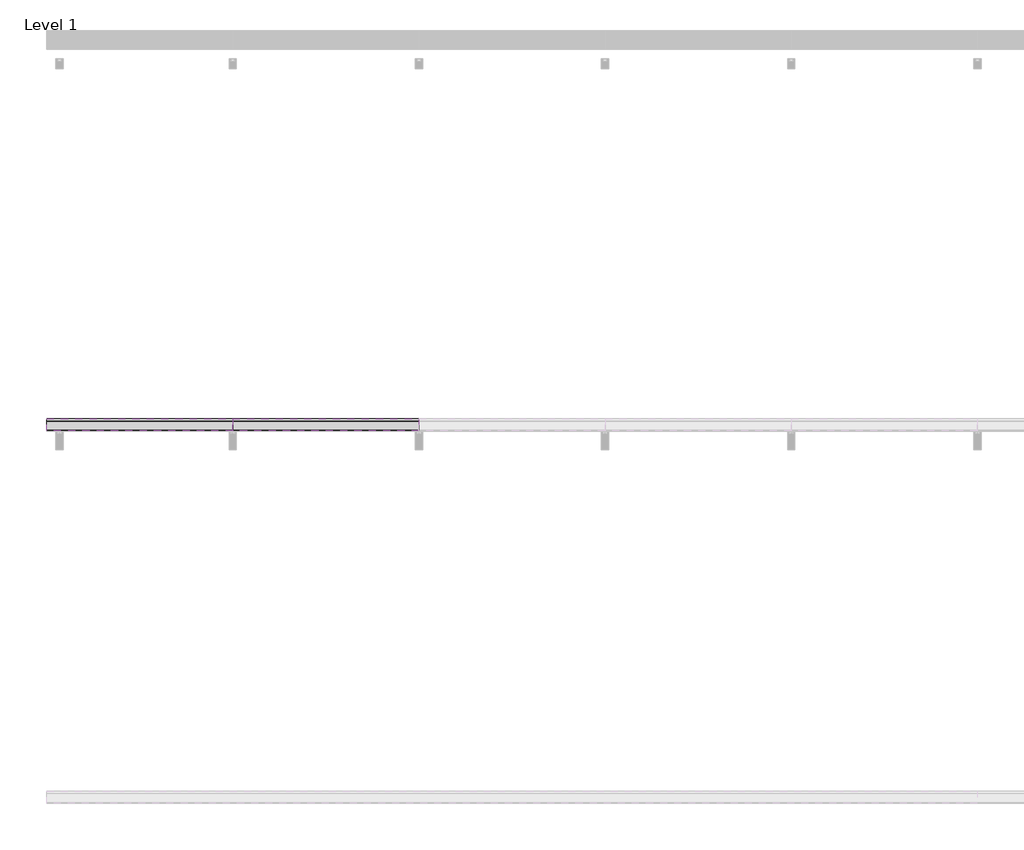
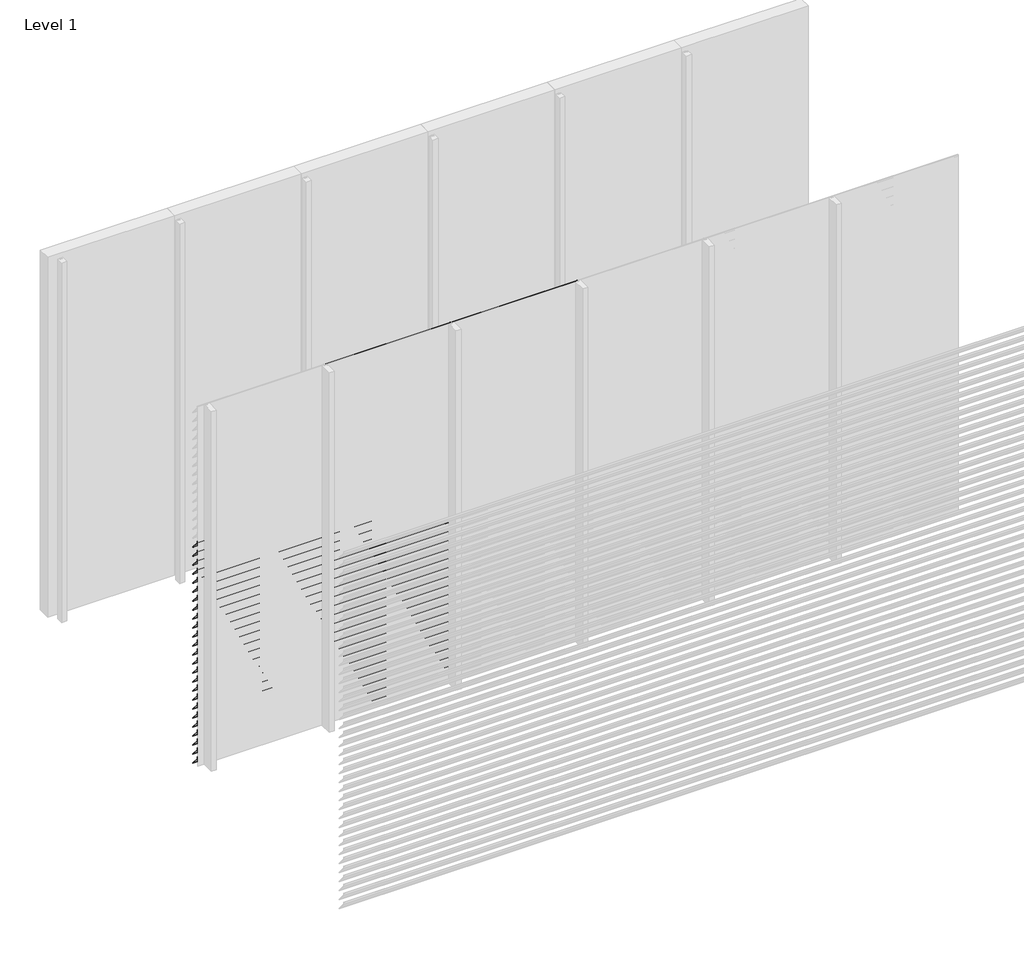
# One storey, part 14 of 35: 86 proxies.
"""IFC4 building model written with IfcOpenShell, lengths in millimetres."""

import ifcopenshell
import ifcopenshell.guid

model = None  # the IFC model being written
_history = None  # IfcOwnerHistory: only IFC2X3 demands one
_inside = {}  # id of a spatial element -> (the spatial element, [elements in it])
_under = {}  # id of a project, library or spatial element -> (it, [spatial elements below it])
_declared = {}  # id of a project -> (the project, [libraries it declares])
_typed = {}  # id of a type object -> (the type object, [elements of that type])
_made_of = {}  # id of a material, layer set ... -> (it, [elements and type objects made of it])


def new_model(schema):
    """Start an empty IFC model of exactly this schema.

    Asked for "IFC4X3", IfcOpenShell would pick the latest addendum, in which some entities
    have other attributes; the version numbers below select the first issue.
    IFC2X3 requires an IfcOwnerHistory on every rooted entity: one is made here for all.
    """
    global model, _history
    if schema == "IFC4X3":
        model = ifcopenshell.file(schema_version=(4, 3, 0, 0))
    else:
        model = ifcopenshell.file(schema=schema)
    _inside.clear()
    _under.clear()
    _declared.clear()
    _typed.clear()
    _made_of.clear()
    _history = None
    if model.schema == "IFC2X3":
        org = make("IfcOrganization", Name="unknown")
        user = make(
            "IfcPersonAndOrganization",
            ThePerson=make("IfcPerson", FamilyName="unknown"),
            TheOrganization=org,
        )
        app = make(
            "IfcApplication",
            ApplicationDeveloper=org,
            Version="unknown",
            ApplicationFullName="unknown",
            ApplicationIdentifier="unknown",
        )
        _history = make(
            "IfcOwnerHistory",
            OwningUser=user,
            OwningApplication=app,
            ChangeAction="ADDED",
            CreationDate=0,
        )
    return model


def make(cls, **values):
    """One entity of the class cls with the attributes given. An attribute that is None is left unset."""
    return model.create_entity(
        cls, **{name: value for name, value in values.items() if value is not None}
    )


def rooted(cls, **values):
    """An entity with a GlobalId (a new one), such as an element, a storey or a relation."""
    return make(cls, GlobalId=ifcopenshell.guid.new(), OwnerHistory=_history, **values)


def si_unit(unit_type, name, prefix=None):
    """IfcSIUnit, for example si_unit("LENGTHUNIT", "METRE", prefix="MILLI")."""
    return make("IfcSIUnit", UnitType=unit_type, Prefix=prefix, Name=name)


def assignment(units):
    """IfcUnitAssignment: the units of a project."""
    return None if units is None else make("IfcUnitAssignment", Units=units)


def point(xyz):
    """IfcCartesianPoint."""
    return None if xyz is None else make("IfcCartesianPoint", Coordinates=xyz)


def direction(xyz):
    """IfcDirection."""
    return None if xyz is None else make("IfcDirection", DirectionRatios=xyz)


def frame(location, z_axis=None, x_axis=None):
    """IfcAxis2Placement3D, a coordinate frame: its origin and axes. An axis left out is left unset."""
    return make(
        "IfcAxis2Placement3D",
        Location=point(location),
        Axis=direction(z_axis),
        RefDirection=direction(x_axis),
    )


def origin():
    """The frame at (0, 0, 0) with its axes left unset."""
    return frame((0.0, 0.0, 0.0))


def place(relative_to, where):
    """IfcLocalPlacement: puts the frame where relative to a parent placement (None: the world)."""
    return make(
        "IfcLocalPlacement", PlacementRelTo=relative_to, RelativePlacement=where
    )


def context(
    kind, dimensions, precision=None, world=None, true_north=None, identifier=None
):
    """IfcGeometricRepresentationContext, for example the 3D "Model" context."""
    return make(
        "IfcGeometricRepresentationContext",
        ContextIdentifier=identifier,
        ContextType=kind,
        CoordinateSpaceDimension=dimensions,
        Precision=precision,
        WorldCoordinateSystem=world,
        TrueNorth=true_north,
    )


def project(units=None, contexts=None):
    """IfcProject with its units and contexts."""
    return rooted(
        "IfcProject",
        Name="project",
        RepresentationContexts=contexts,
        UnitsInContext=assignment(units),
    )


def spatial(cls, under=None, at=None, **own):
    """A site, building, storey or space (cls), placed at a placement, below another one or the project."""
    s = rooted(cls, ObjectPlacement=at, **own)
    if under is not None:
        _under.setdefault(under.id(), (under, []))[1].append(s)
    return s


def polyline(points):
    """IfcPolyline through the points."""
    return make("IfcPolyline", Points=[point(p) for p in points])


def outline(outer, holes=None, kind="AREA"):
    """IfcArbitraryClosedProfileDef: a profile drawn as a closed curve; with holes, ...WithVoids."""
    if holes is None:
        return make("IfcArbitraryClosedProfileDef", ProfileType=kind, OuterCurve=outer)
    return make(
        "IfcArbitraryProfileDefWithVoids",
        ProfileType=kind,
        OuterCurve=outer,
        InnerCurves=holes,
    )


def extrude(swept, where, along, depth):
    """IfcExtrudedAreaSolid: the profile swept, set in the frame where, extruded along a direction by depth."""
    return make(
        "IfcExtrudedAreaSolid",
        SweptArea=swept,
        Position=where,
        ExtrudedDirection=direction(along),
        Depth=depth,
    )


def shape(context_of_items, identifier, shape_type, items):
    """IfcShapeRepresentation: the items that make up one representation, for example the "Body"."""
    return make(
        "IfcShapeRepresentation",
        ContextOfItems=context_of_items,
        RepresentationIdentifier=identifier,
        RepresentationType=shape_type,
        Items=items,
    )


def made_of(thing, what):
    """Note that an element or type object is made of a material, layer set ...; save() writes the relation."""
    if what is not None:
        _made_of.setdefault(what.id(), (what, []))[1].append(thing)
    return thing


def element(
    cls,
    number,
    at=None,
    inside=None,
    cuts=None,
    type_object=None,
    material=None,
    context=None,
    identifier="Body",
    shape_type=None,
    held_by="IfcProductDefinitionShape",
    body=None,
    shapes=None,
    **own,
):
    """One element of the class cls, such as IfcWall. Its Tag is "e" and its number.

    at: its placement. inside: the storey or other place that contains it. cuts: it is an
    opening in that element (IfcRelVoidsElement). A single representation is given by context,
    identifier, shape_type and body (its items); several are given by shapes. held_by: the class
    of the entity that holds the representations. save() writes the other relations.
    """
    e = rooted(cls, Tag="e%d" % number, ObjectPlacement=at, **own)
    if body is not None:
        shapes = [shape(context, identifier, shape_type, body)]
    if shapes is not None:
        e.Representation = make(held_by, Representations=shapes)
    if inside is not None:
        _inside.setdefault(inside.id(), (inside, []))[1].append(e)
    if cuts is not None:
        rooted(
            "IfcRelVoidsElement", RelatingBuildingElement=cuts, RelatedOpeningElement=e
        )
    if type_object is not None:
        _typed.setdefault(type_object.id(), (type_object, []))[1].append(e)
    return made_of(e, material)


def aggregate(whole, parts):
    """IfcRelAggregates: a whole, such as a stair, and the parts it consists of."""
    return rooted("IfcRelAggregates", RelatingObject=whole, RelatedObjects=parts)


def save(model, path):
    """Write the relations noted so far, then the file.

    IfcRelAggregates (storeys below a building ...), IfcRelContainedInSpatialStructure (elements
    in a storey), IfcRelDefinesByType, IfcRelAssociatesMaterial and IfcRelDeclares: one each for
    every whole, place, type object, material and project.
    """
    for whole, parts in _under.values():
        aggregate(whole, parts)
    for where, things in _inside.values():
        rooted(
            "IfcRelContainedInSpatialStructure",
            RelatedElements=things,
            RelatingStructure=where,
        )
    for kind, things in _typed.values():
        rooted("IfcRelDefinesByType", RelatedObjects=things, RelatingType=kind)
    for what, things in _made_of.values():
        rooted("IfcRelAssociatesMaterial", RelatedObjects=things, RelatingMaterial=what)
    for by, libraries in _declared.values():
        rooted("IfcRelDeclares", RelatingContext=by, RelatedDefinitions=libraries)
    model.write(path)


model = new_model("IFC4")

# Units and contexts
model_context = context("Model", 3, world=origin())
ifc_project = project(units=[si_unit("LENGTHUNIT", "METRE", prefix="MILLI")], contexts=[model_context])

# Site, building, storey
site = spatial("IfcSite", under=ifc_project)
building = spatial("IfcBuilding", under=site)
storey = spatial("IfcBuildingStorey", under=building, Name="Level 1", Elevation=0.0)

# Proxies
placement = place(None, origin())
element("IfcBuildingElementProxy", 1, Name="Wall Sweeps", at=placement, inside=storey, context=model_context, shape_type="SweptSolid", body=[
    extrude(outline(polyline([(-35996.5, 1875.0), (-35996.5, 1860.5463701), (-35934.5, 1788.9330051), (-35934.5, 1785.4), (-35936.0, 1785.4), (-35936.0, 1788.3738975), (-35998.0, 1859.9872626), (-35998.0, 1875.0), (-35996.5, 1875.0)])), frame((0.0, 0.0, 0.0), z_axis=(1.0, 0.0, 0.0), x_axis=(0.0, 1.0, 0.0)), (0.0, 0.0, 1.0), 1000.0),
])
element("IfcBuildingElementProxy", 2, Name="Wall Sweeps", at=placement, inside=storey, context=model_context, shape_type="SweptSolid", body=[
    extrude(outline(polyline([(-35996.5, 1800.0), (-35996.5, 1785.5463701), (-35934.5, 1713.9330051), (-35934.5, 1710.4), (-35936.0, 1710.4), (-35936.0, 1713.3738975), (-35998.0, 1784.9872626), (-35998.0, 1800.0), (-35996.5, 1800.0)])), frame((0.0, 0.0, 0.0), z_axis=(1.0, 0.0, 0.0), x_axis=(0.0, 1.0, 0.0)), (0.0, 0.0, 1.0), 1000.0),
])
element("IfcBuildingElementProxy", 3, Name="Wall Sweeps", at=placement, inside=storey, context=model_context, shape_type="SweptSolid", body=[
    extrude(outline(polyline([(-35996.5, 1725.0), (-35996.5, 1710.5463701), (-35934.5, 1638.9330051), (-35934.5, 1635.4), (-35936.0, 1635.4), (-35936.0, 1638.3738975), (-35998.0, 1709.9872626), (-35998.0, 1725.0), (-35996.5, 1725.0)])), frame((0.0, 0.0, 0.0), z_axis=(1.0, 0.0, 0.0), x_axis=(0.0, 1.0, 0.0)), (0.0, 0.0, 1.0), 1000.0),
])
element("IfcBuildingElementProxy", 4, Name="Wall Sweeps", at=placement, inside=storey, context=model_context, shape_type="SweptSolid", body=[
    extrude(outline(polyline([(-35996.5, 1650.0), (-35996.5, 1635.5463701), (-35934.5, 1563.9330051), (-35934.5, 1560.4), (-35936.0, 1560.4), (-35936.0, 1563.3738975), (-35998.0, 1634.9872626), (-35998.0, 1650.0), (-35996.5, 1650.0)])), frame((0.0, 0.0, 0.0), z_axis=(1.0, 0.0, 0.0), x_axis=(0.0, 1.0, 0.0)), (0.0, 0.0, 1.0), 1000.0),
])
element("IfcBuildingElementProxy", 5, Name="Wall Sweeps", at=placement, inside=storey, context=model_context, shape_type="SweptSolid", body=[
    extrude(outline(polyline([(-35996.5, 1575.0), (-35996.5, 1560.5463701), (-35934.5, 1488.9330051), (-35934.5, 1485.4), (-35936.0, 1485.4), (-35936.0, 1488.3738975), (-35998.0, 1559.9872626), (-35998.0, 1575.0), (-35996.5, 1575.0)])), frame((0.0, 0.0, 0.0), z_axis=(1.0, 0.0, 0.0), x_axis=(0.0, 1.0, 0.0)), (0.0, 0.0, 1.0), 1000.0),
])
element("IfcBuildingElementProxy", 6, Name="Wall Sweeps", at=placement, inside=storey, context=model_context, shape_type="SweptSolid", body=[
    extrude(outline(polyline([(-35996.5, 1500.0), (-35996.5, 1485.5463701), (-35934.5, 1413.9330051), (-35934.5, 1410.4), (-35936.0, 1410.4), (-35936.0, 1413.3738975), (-35998.0, 1484.9872626), (-35998.0, 1500.0), (-35996.5, 1500.0)])), frame((0.0, 0.0, 0.0), z_axis=(1.0, 0.0, 0.0), x_axis=(0.0, 1.0, 0.0)), (0.0, 0.0, 1.0), 1000.0),
])
element("IfcBuildingElementProxy", 7, Name="Wall Sweeps", at=placement, inside=storey, context=model_context, shape_type="SweptSolid", body=[
    extrude(outline(polyline([(-35996.5, 1425.0), (-35996.5, 1410.5463701), (-35934.5, 1338.9330051), (-35934.5, 1335.4), (-35936.0, 1335.4), (-35936.0, 1338.3738975), (-35998.0, 1409.9872626), (-35998.0, 1425.0), (-35996.5, 1425.0)])), frame((0.0, 0.0, 0.0), z_axis=(1.0, 0.0, 0.0), x_axis=(0.0, 1.0, 0.0)), (0.0, 0.0, 1.0), 1000.0),
])
element("IfcBuildingElementProxy", 8, Name="Wall Sweeps", at=placement, inside=storey, context=model_context, shape_type="SweptSolid", body=[
    extrude(outline(polyline([(-35996.5, 1350.0), (-35996.5, 1335.5463701), (-35934.5, 1263.9330051), (-35934.5, 1260.4), (-35936.0, 1260.4), (-35936.0, 1263.3738975), (-35998.0, 1334.9872626), (-35998.0, 1350.0), (-35996.5, 1350.0)])), frame((0.0, 0.0, 0.0), z_axis=(1.0, 0.0, 0.0), x_axis=(0.0, 1.0, 0.0)), (0.0, 0.0, 1.0), 1000.0),
])
element("IfcBuildingElementProxy", 9, Name="Wall Sweeps", at=placement, inside=storey, context=model_context, shape_type="SweptSolid", body=[
    extrude(outline(polyline([(-35996.5, 1275.0), (-35996.5, 1260.5463701), (-35934.5, 1188.9330051), (-35934.5, 1185.4), (-35936.0, 1185.4), (-35936.0, 1188.3738975), (-35998.0, 1259.9872626), (-35998.0, 1275.0), (-35996.5, 1275.0)])), frame((0.0, 0.0, 0.0), z_axis=(1.0, 0.0, 0.0), x_axis=(0.0, 1.0, 0.0)), (0.0, 0.0, 1.0), 1000.0),
])
element("IfcBuildingElementProxy", 10, Name="Wall Sweeps", at=placement, inside=storey, context=model_context, shape_type="SweptSolid", body=[
    extrude(outline(polyline([(-35996.5, 1200.0), (-35996.5, 1185.5463701), (-35934.5, 1113.9330051), (-35934.5, 1110.4), (-35936.0, 1110.4), (-35936.0, 1113.3738975), (-35998.0, 1184.9872626), (-35998.0, 1200.0), (-35996.5, 1200.0)])), frame((0.0, 0.0, 0.0), z_axis=(1.0, 0.0, 0.0), x_axis=(0.0, 1.0, 0.0)), (0.0, 0.0, 1.0), 1000.0),
])
element("IfcBuildingElementProxy", 11, Name="Wall Sweeps", at=placement, inside=storey, context=model_context, shape_type="SweptSolid", body=[
    extrude(outline(polyline([(-35996.5, 1125.0), (-35996.5, 1110.5463701), (-35934.5, 1038.9330051), (-35934.5, 1035.4), (-35936.0, 1035.4), (-35936.0, 1038.3738975), (-35998.0, 1109.9872626), (-35998.0, 1125.0), (-35996.5, 1125.0)])), frame((0.0, 0.0, 0.0), z_axis=(1.0, 0.0, 0.0), x_axis=(0.0, 1.0, 0.0)), (0.0, 0.0, 1.0), 1000.0),
])
element("IfcBuildingElementProxy", 12, Name="Wall Sweeps", at=placement, inside=storey, context=model_context, shape_type="SweptSolid", body=[
    extrude(outline(polyline([(-35996.5, 1050.0), (-35996.5, 1035.5463701), (-35934.5, 963.9330051), (-35934.5, 960.4), (-35936.0, 960.4), (-35936.0, 963.3738975), (-35998.0, 1034.9872626), (-35998.0, 1050.0), (-35996.5, 1050.0)])), frame((0.0, 0.0, 0.0), z_axis=(1.0, 0.0, 0.0), x_axis=(0.0, 1.0, 0.0)), (0.0, 0.0, 1.0), 1000.0),
])
element("IfcBuildingElementProxy", 13, Name="Wall Sweeps", at=placement, inside=storey, context=model_context, shape_type="SweptSolid", body=[
    extrude(outline(polyline([(-35996.5, 975.0), (-35996.5, 960.5463701), (-35934.5, 888.9330051), (-35934.5, 885.4), (-35936.0, 885.4), (-35936.0, 888.3738975), (-35998.0, 959.9872626), (-35998.0, 975.0), (-35996.5, 975.0)])), frame((0.0, 0.0, 0.0), z_axis=(1.0, 0.0, 0.0), x_axis=(0.0, 1.0, 0.0)), (0.0, 0.0, 1.0), 1000.0),
])
element("IfcBuildingElementProxy", 14, Name="Wall Sweeps", at=placement, inside=storey, context=model_context, shape_type="SweptSolid", body=[
    extrude(outline(polyline([(-35996.5, 900.0), (-35996.5, 885.5463701), (-35934.5, 813.9330051), (-35934.5, 810.4), (-35936.0, 810.4), (-35936.0, 813.3738975), (-35998.0, 884.9872626), (-35998.0, 900.0), (-35996.5, 900.0)])), frame((0.0, 0.0, 0.0), z_axis=(1.0, 0.0, 0.0), x_axis=(0.0, 1.0, 0.0)), (0.0, 0.0, 1.0), 1000.0),
])
element("IfcBuildingElementProxy", 15, Name="Wall Sweeps", at=placement, inside=storey, context=model_context, shape_type="SweptSolid", body=[
    extrude(outline(polyline([(-35996.5, 825.0), (-35996.5, 810.5463701), (-35934.5, 738.9330051), (-35934.5, 735.4), (-35936.0, 735.4), (-35936.0, 738.3738975), (-35998.0, 809.9872626), (-35998.0, 825.0), (-35996.5, 825.0)])), frame((0.0, 0.0, 0.0), z_axis=(1.0, 0.0, 0.0), x_axis=(0.0, 1.0, 0.0)), (0.0, 0.0, 1.0), 1000.0),
])
element("IfcBuildingElementProxy", 16, Name="Wall Sweeps", at=placement, inside=storey, context=model_context, shape_type="SweptSolid", body=[
    extrude(outline(polyline([(-35996.5, 750.0), (-35996.5, 735.5463701), (-35934.5, 663.9330051), (-35934.5, 660.4), (-35936.0, 660.4), (-35936.0, 663.3738975), (-35998.0, 734.9872626), (-35998.0, 750.0), (-35996.5, 750.0)])), frame((0.0, 0.0, 0.0), z_axis=(1.0, 0.0, 0.0), x_axis=(0.0, 1.0, 0.0)), (0.0, 0.0, 1.0), 1000.0),
])
element("IfcBuildingElementProxy", 17, Name="Wall Sweeps", at=placement, inside=storey, context=model_context, shape_type="SweptSolid", body=[
    extrude(outline(polyline([(-35996.5, 675.0), (-35996.5, 660.5463701), (-35934.5, 588.9330051), (-35934.5, 585.4), (-35936.0, 585.4), (-35936.0, 588.3738975), (-35998.0, 659.9872626), (-35998.0, 675.0), (-35996.5, 675.0)])), frame((0.0, 0.0, 0.0), z_axis=(1.0, 0.0, 0.0), x_axis=(0.0, 1.0, 0.0)), (0.0, 0.0, 1.0), 1000.0),
])
element("IfcBuildingElementProxy", 18, Name="Wall Sweeps", at=placement, inside=storey, context=model_context, shape_type="SweptSolid", body=[
    extrude(outline(polyline([(-35996.5, 600.0), (-35996.5, 585.5463701), (-35934.5, 513.9330051), (-35934.5, 510.4), (-35936.0, 510.4), (-35936.0, 513.3738975), (-35998.0, 584.9872626), (-35998.0, 600.0), (-35996.5, 600.0)])), frame((0.0, 0.0, 0.0), z_axis=(1.0, 0.0, 0.0), x_axis=(0.0, 1.0, 0.0)), (0.0, 0.0, 1.0), 1000.0),
])
element("IfcBuildingElementProxy", 19, Name="Wall Sweeps", at=placement, inside=storey, context=model_context, shape_type="SweptSolid", body=[
    extrude(outline(polyline([(-35996.5, 525.0), (-35996.5, 510.5463701), (-35934.5, 438.9330051), (-35934.5, 435.4), (-35936.0, 435.4), (-35936.0, 438.3738975), (-35998.0, 509.9872626), (-35998.0, 525.0), (-35996.5, 525.0)])), frame((0.0, 0.0, 0.0), z_axis=(1.0, 0.0, 0.0), x_axis=(0.0, 1.0, 0.0)), (0.0, 0.0, 1.0), 1000.0),
])
element("IfcBuildingElementProxy", 20, Name="Wall Sweeps", at=placement, inside=storey, context=model_context, shape_type="SweptSolid", body=[
    extrude(outline(polyline([(-35996.5, 450.0), (-35996.5, 435.5463701), (-35934.5, 363.9330051), (-35934.5, 360.4), (-35936.0, 360.4), (-35936.0, 363.3738975), (-35998.0, 434.9872626), (-35998.0, 450.0), (-35996.5, 450.0)])), frame((0.0, 0.0, 0.0), z_axis=(1.0, 0.0, 0.0), x_axis=(0.0, 1.0, 0.0)), (0.0, 0.0, 1.0), 1000.0),
])
element("IfcBuildingElementProxy", 21, Name="Wall Sweeps", at=placement, inside=storey, context=model_context, shape_type="SweptSolid", body=[
    extrude(outline(polyline([(-35996.5, 375.0), (-35996.5, 360.5463701), (-35934.5, 288.9330051), (-35934.5, 285.4), (-35936.0, 285.4), (-35936.0, 288.3738975), (-35998.0, 359.9872626), (-35998.0, 375.0), (-35996.5, 375.0)])), frame((0.0, 0.0, 0.0), z_axis=(1.0, 0.0, 0.0), x_axis=(0.0, 1.0, 0.0)), (0.0, 0.0, 1.0), 1000.0),
])
element("IfcBuildingElementProxy", 22, Name="Wall Sweeps", at=placement, inside=storey, context=model_context, shape_type="SweptSolid", body=[
    extrude(outline(polyline([(-35996.5, 300.0), (-35996.5, 285.5463701), (-35934.5, 213.9330051), (-35934.5, 210.4), (-35936.0, 210.4), (-35936.0, 213.3738975), (-35998.0, 284.9872626), (-35998.0, 300.0), (-35996.5, 300.0)])), frame((0.0, 0.0, 0.0), z_axis=(1.0, 0.0, 0.0), x_axis=(0.0, 1.0, 0.0)), (0.0, 0.0, 1.0), 1000.0),
])
element("IfcBuildingElementProxy", 23, Name="Wall Sweeps", at=placement, inside=storey, context=model_context, shape_type="SweptSolid", body=[
    extrude(outline(polyline([(-35996.5, 225.0), (-35996.5, 210.5463701), (-35934.5, 138.9330051), (-35934.5, 135.4), (-35936.0, 135.4), (-35936.0, 138.3738975), (-35998.0, 209.9872626), (-35998.0, 225.0), (-35996.5, 225.0)])), frame((0.0, 0.0, 0.0), z_axis=(1.0, 0.0, 0.0), x_axis=(0.0, 1.0, 0.0)), (0.0, 0.0, 1.0), 1000.0),
])
element("IfcBuildingElementProxy", 24, Name="Wall Sweeps", at=placement, inside=storey, context=model_context, shape_type="SweptSolid", body=[
    extrude(outline(polyline([(-35996.5, 150.0), (-35996.5, 135.5463701), (-35934.5, 63.9330051), (-35934.5, 60.4), (-35936.0, 60.4), (-35936.0, 63.3738975), (-35998.0, 134.9872626), (-35998.0, 150.0), (-35996.5, 150.0)])), frame((0.0, 0.0, 0.0), z_axis=(1.0, 0.0, 0.0), x_axis=(0.0, 1.0, 0.0)), (0.0, 0.0, 1.0), 1000.0),
])
element("IfcBuildingElementProxy", 25, Name="Wall Sweeps", at=placement, inside=storey, context=model_context, shape_type="SweptSolid", body=[
    extrude(outline(polyline([(-35996.5, 75.0), (-35996.5, 60.5463701), (-35934.5, -11.0669949), (-35934.5, -14.6), (-35936.0, -14.6), (-35936.0, -11.6261025), (-35998.0, 59.9872626), (-35998.0, 75.0), (-35996.5, 75.0)])), frame((0.0, 0.0, 0.0), z_axis=(1.0, 0.0, 0.0), x_axis=(0.0, 1.0, 0.0)), (0.0, 0.0, 1.0), 1000.0),
])
element("IfcBuildingElementProxy", 26, Name="Wall Sweeps", at=placement, inside=storey, context=model_context, shape_type="SweptSolid", body=[
    extrude(outline(polyline([(-35996.5, 3000.0), (-35996.5, 2985.5463701), (-35934.5, 2913.9330051), (-35934.5, 2910.4), (-35936.0, 2910.4), (-35936.0, 2913.3738975), (-35998.0, 2984.9872626), (-35998.0, 3000.0), (-35996.5, 3000.0)])), frame((1000.0, 0.0, 0.0), z_axis=(1.0, 0.0, 0.0), x_axis=(0.0, 1.0, 0.0)), (0.0, 0.0, 1.0), 1000.0),
])
element("IfcBuildingElementProxy", 27, Name="Wall Sweeps", at=placement, inside=storey, context=model_context, shape_type="SweptSolid", body=[
    extrude(outline(polyline([(-35996.5, 2925.0), (-35996.5, 2910.5463701), (-35934.5, 2838.9330051), (-35934.5, 2835.4), (-35936.0, 2835.4), (-35936.0, 2838.3738975), (-35998.0, 2909.9872626), (-35998.0, 2925.0), (-35996.5, 2925.0)])), frame((1000.0, 0.0, 0.0), z_axis=(1.0, 0.0, 0.0), x_axis=(0.0, 1.0, 0.0)), (0.0, 0.0, 1.0), 1000.0),
])
element("IfcBuildingElementProxy", 28, Name="Wall Sweeps", at=placement, inside=storey, context=model_context, shape_type="SweptSolid", body=[
    extrude(outline(polyline([(-35996.5, 2850.0), (-35996.5, 2835.5463701), (-35934.5, 2763.9330051), (-35934.5, 2760.4), (-35936.0, 2760.4), (-35936.0, 2763.3738975), (-35998.0, 2834.9872626), (-35998.0, 2850.0), (-35996.5, 2850.0)])), frame((1000.0, 0.0, 0.0), z_axis=(1.0, 0.0, 0.0), x_axis=(0.0, 1.0, 0.0)), (0.0, 0.0, 1.0), 1000.0),
])
element("IfcBuildingElementProxy", 29, Name="Wall Sweeps", at=placement, inside=storey, context=model_context, shape_type="SweptSolid", body=[
    extrude(outline(polyline([(-35996.5, 2775.0), (-35996.5, 2760.5463701), (-35934.5, 2688.9330051), (-35934.5, 2685.4), (-35936.0, 2685.4), (-35936.0, 2688.3738975), (-35998.0, 2759.9872626), (-35998.0, 2775.0), (-35996.5, 2775.0)])), frame((1000.0, 0.0, 0.0), z_axis=(1.0, 0.0, 0.0), x_axis=(0.0, 1.0, 0.0)), (0.0, 0.0, 1.0), 1000.0),
])
element("IfcBuildingElementProxy", 30, Name="Wall Sweeps", at=placement, inside=storey, context=model_context, shape_type="SweptSolid", body=[
    extrude(outline(polyline([(-35996.5, 2700.0), (-35996.5, 2685.5463701), (-35934.5, 2613.9330051), (-35934.5, 2610.4), (-35936.0, 2610.4), (-35936.0, 2613.3738975), (-35998.0, 2684.9872626), (-35998.0, 2700.0), (-35996.5, 2700.0)])), frame((1000.0, 0.0, 0.0), z_axis=(1.0, 0.0, 0.0), x_axis=(0.0, 1.0, 0.0)), (0.0, 0.0, 1.0), 1000.0),
])
element("IfcBuildingElementProxy", 31, Name="Wall Sweeps", at=placement, inside=storey, context=model_context, shape_type="SweptSolid", body=[
    extrude(outline(polyline([(-35996.5, 2625.0), (-35996.5, 2610.5463701), (-35934.5, 2538.9330051), (-35934.5, 2535.4), (-35936.0, 2535.4), (-35936.0, 2538.3738975), (-35998.0, 2609.9872626), (-35998.0, 2625.0), (-35996.5, 2625.0)])), frame((1000.0, 0.0, 0.0), z_axis=(1.0, 0.0, 0.0), x_axis=(0.0, 1.0, 0.0)), (0.0, 0.0, 1.0), 1000.0),
])
element("IfcBuildingElementProxy", 32, Name="Wall Sweeps", at=placement, inside=storey, context=model_context, shape_type="SweptSolid", body=[
    extrude(outline(polyline([(-35996.5, 2550.0), (-35996.5, 2535.5463701), (-35934.5, 2463.9330051), (-35934.5, 2460.4), (-35936.0, 2460.4), (-35936.0, 2463.3738975), (-35998.0, 2534.9872626), (-35998.0, 2550.0), (-35996.5, 2550.0)])), frame((1000.0, 0.0, 0.0), z_axis=(1.0, 0.0, 0.0), x_axis=(0.0, 1.0, 0.0)), (0.0, 0.0, 1.0), 1000.0),
])
element("IfcBuildingElementProxy", 33, Name="Wall Sweeps", at=placement, inside=storey, context=model_context, shape_type="SweptSolid", body=[
    extrude(outline(polyline([(-35996.5, 2475.0), (-35996.5, 2460.5463701), (-35934.5, 2388.9330051), (-35934.5, 2385.4), (-35936.0, 2385.4), (-35936.0, 2388.3738975), (-35998.0, 2459.9872626), (-35998.0, 2475.0), (-35996.5, 2475.0)])), frame((1000.0, 0.0, 0.0), z_axis=(1.0, 0.0, 0.0), x_axis=(0.0, 1.0, 0.0)), (0.0, 0.0, 1.0), 1000.0),
])
element("IfcBuildingElementProxy", 34, Name="Wall Sweeps", at=placement, inside=storey, context=model_context, shape_type="SweptSolid", body=[
    extrude(outline(polyline([(-35996.5, 2400.0), (-35996.5, 2385.5463701), (-35934.5, 2313.9330051), (-35934.5, 2310.4), (-35936.0, 2310.4), (-35936.0, 2313.3738975), (-35998.0, 2384.9872626), (-35998.0, 2400.0), (-35996.5, 2400.0)])), frame((1000.0, 0.0, 0.0), z_axis=(1.0, 0.0, 0.0), x_axis=(0.0, 1.0, 0.0)), (0.0, 0.0, 1.0), 1000.0),
])
element("IfcBuildingElementProxy", 35, Name="Wall Sweeps", at=placement, inside=storey, context=model_context, shape_type="SweptSolid", body=[
    extrude(outline(polyline([(-35996.5, 2325.0), (-35996.5, 2310.5463701), (-35934.5, 2238.9330051), (-35934.5, 2235.4), (-35936.0, 2235.4), (-35936.0, 2238.3738975), (-35998.0, 2309.9872626), (-35998.0, 2325.0), (-35996.5, 2325.0)])), frame((1000.0, 0.0, 0.0), z_axis=(1.0, 0.0, 0.0), x_axis=(0.0, 1.0, 0.0)), (0.0, 0.0, 1.0), 1000.0),
])
element("IfcBuildingElementProxy", 36, Name="Wall Sweeps", at=placement, inside=storey, context=model_context, shape_type="SweptSolid", body=[
    extrude(outline(polyline([(-35996.5, 2250.0), (-35996.5, 2235.5463701), (-35934.5, 2163.9330051), (-35934.5, 2160.4), (-35936.0, 2160.4), (-35936.0, 2163.3738975), (-35998.0, 2234.9872626), (-35998.0, 2250.0), (-35996.5, 2250.0)])), frame((1000.0, 0.0, 0.0), z_axis=(1.0, 0.0, 0.0), x_axis=(0.0, 1.0, 0.0)), (0.0, 0.0, 1.0), 1000.0),
])
element("IfcBuildingElementProxy", 37, Name="Wall Sweeps", at=placement, inside=storey, context=model_context, shape_type="SweptSolid", body=[
    extrude(outline(polyline([(-35996.5, 2175.0), (-35996.5, 2160.5463701), (-35934.5, 2088.9330051), (-35934.5, 2085.4), (-35936.0, 2085.4), (-35936.0, 2088.3738975), (-35998.0, 2159.9872626), (-35998.0, 2175.0), (-35996.5, 2175.0)])), frame((1000.0, 0.0, 0.0), z_axis=(1.0, 0.0, 0.0), x_axis=(0.0, 1.0, 0.0)), (0.0, 0.0, 1.0), 1000.0),
])
element("IfcBuildingElementProxy", 38, Name="Wall Sweeps", at=placement, inside=storey, context=model_context, shape_type="SweptSolid", body=[
    extrude(outline(polyline([(-35996.5, 2100.0), (-35996.5, 2085.5463701), (-35934.5, 2013.9330051), (-35934.5, 2010.4), (-35936.0, 2010.4), (-35936.0, 2013.3738975), (-35998.0, 2084.9872626), (-35998.0, 2100.0), (-35996.5, 2100.0)])), frame((1000.0, 0.0, 0.0), z_axis=(1.0, 0.0, 0.0), x_axis=(0.0, 1.0, 0.0)), (0.0, 0.0, 1.0), 1000.0),
])
element("IfcBuildingElementProxy", 39, Name="Wall Sweeps", at=placement, inside=storey, context=model_context, shape_type="SweptSolid", body=[
    extrude(outline(polyline([(-35996.5, 2025.0), (-35996.5, 2010.5463701), (-35934.5, 1938.9330051), (-35934.5, 1935.4), (-35936.0, 1935.4), (-35936.0, 1938.3738975), (-35998.0, 2009.9872626), (-35998.0, 2025.0), (-35996.5, 2025.0)])), frame((1000.0, 0.0, 0.0), z_axis=(1.0, 0.0, 0.0), x_axis=(0.0, 1.0, 0.0)), (0.0, 0.0, 1.0), 1000.0),
])
element("IfcBuildingElementProxy", 40, Name="Wall Sweeps", at=placement, inside=storey, context=model_context, shape_type="SweptSolid", body=[
    extrude(outline(polyline([(-35996.5, 1950.0), (-35996.5, 1935.5463701), (-35934.5, 1863.9330051), (-35934.5, 1860.4), (-35936.0, 1860.4), (-35936.0, 1863.3738975), (-35998.0, 1934.9872626), (-35998.0, 1950.0), (-35996.5, 1950.0)])), frame((1000.0, 0.0, 0.0), z_axis=(1.0, 0.0, 0.0), x_axis=(0.0, 1.0, 0.0)), (0.0, 0.0, 1.0), 1000.0),
])
element("IfcBuildingElementProxy", 41, Name="Wall Sweeps", at=placement, inside=storey, context=model_context, shape_type="SweptSolid", body=[
    extrude(outline(polyline([(-35996.5, 1875.0), (-35996.5, 1860.5463701), (-35934.5, 1788.9330051), (-35934.5, 1785.4), (-35936.0, 1785.4), (-35936.0, 1788.3738975), (-35998.0, 1859.9872626), (-35998.0, 1875.0), (-35996.5, 1875.0)])), frame((1000.0, 0.0, 0.0), z_axis=(1.0, 0.0, 0.0), x_axis=(0.0, 1.0, 0.0)), (0.0, 0.0, 1.0), 1000.0),
])
element("IfcBuildingElementProxy", 42, Name="Wall Sweeps", at=placement, inside=storey, context=model_context, shape_type="SweptSolid", body=[
    extrude(outline(polyline([(-35996.5, 1800.0), (-35996.5, 1785.5463701), (-35934.5, 1713.9330051), (-35934.5, 1710.4), (-35936.0, 1710.4), (-35936.0, 1713.3738975), (-35998.0, 1784.9872626), (-35998.0, 1800.0), (-35996.5, 1800.0)])), frame((1000.0, 0.0, 0.0), z_axis=(1.0, 0.0, 0.0), x_axis=(0.0, 1.0, 0.0)), (0.0, 0.0, 1.0), 1000.0),
])
element("IfcBuildingElementProxy", 43, Name="Wall Sweeps", at=placement, inside=storey, context=model_context, shape_type="SweptSolid", body=[
    extrude(outline(polyline([(-35996.5, 1725.0), (-35996.5, 1710.5463701), (-35934.5, 1638.9330051), (-35934.5, 1635.4), (-35936.0, 1635.4), (-35936.0, 1638.3738975), (-35998.0, 1709.9872626), (-35998.0, 1725.0), (-35996.5, 1725.0)])), frame((1000.0, 0.0, 0.0), z_axis=(1.0, 0.0, 0.0), x_axis=(0.0, 1.0, 0.0)), (0.0, 0.0, 1.0), 1000.0),
])
element("IfcBuildingElementProxy", 44, Name="Wall Sweeps", at=placement, inside=storey, context=model_context, shape_type="SweptSolid", body=[
    extrude(outline(polyline([(-35996.5, 1650.0), (-35996.5, 1635.5463701), (-35934.5, 1563.9330051), (-35934.5, 1560.4), (-35936.0, 1560.4), (-35936.0, 1563.3738975), (-35998.0, 1634.9872626), (-35998.0, 1650.0), (-35996.5, 1650.0)])), frame((1000.0, 0.0, 0.0), z_axis=(1.0, 0.0, 0.0), x_axis=(0.0, 1.0, 0.0)), (0.0, 0.0, 1.0), 1000.0),
])
element("IfcBuildingElementProxy", 45, Name="Wall Sweeps", at=placement, inside=storey, context=model_context, shape_type="SweptSolid", body=[
    extrude(outline(polyline([(-35996.5, 1575.0), (-35996.5, 1560.5463701), (-35934.5, 1488.9330051), (-35934.5, 1485.4), (-35936.0, 1485.4), (-35936.0, 1488.3738975), (-35998.0, 1559.9872626), (-35998.0, 1575.0), (-35996.5, 1575.0)])), frame((1000.0, 0.0, 0.0), z_axis=(1.0, 0.0, 0.0), x_axis=(0.0, 1.0, 0.0)), (0.0, 0.0, 1.0), 1000.0),
])
element("IfcBuildingElementProxy", 46, Name="Wall Sweeps", at=placement, inside=storey, context=model_context, shape_type="SweptSolid", body=[
    extrude(outline(polyline([(-35996.5, 1500.0), (-35996.5, 1485.5463701), (-35934.5, 1413.9330051), (-35934.5, 1410.4), (-35936.0, 1410.4), (-35936.0, 1413.3738975), (-35998.0, 1484.9872626), (-35998.0, 1500.0), (-35996.5, 1500.0)])), frame((1000.0, 0.0, 0.0), z_axis=(1.0, 0.0, 0.0), x_axis=(0.0, 1.0, 0.0)), (0.0, 0.0, 1.0), 1000.0),
])
element("IfcBuildingElementProxy", 47, Name="Wall Sweeps", at=placement, inside=storey, context=model_context, shape_type="SweptSolid", body=[
    extrude(outline(polyline([(-35996.5, 1425.0), (-35996.5, 1410.5463701), (-35934.5, 1338.9330051), (-35934.5, 1335.4), (-35936.0, 1335.4), (-35936.0, 1338.3738975), (-35998.0, 1409.9872626), (-35998.0, 1425.0), (-35996.5, 1425.0)])), frame((1000.0, 0.0, 0.0), z_axis=(1.0, 0.0, 0.0), x_axis=(0.0, 1.0, 0.0)), (0.0, 0.0, 1.0), 1000.0),
])
element("IfcBuildingElementProxy", 48, Name="Wall Sweeps", at=placement, inside=storey, context=model_context, shape_type="SweptSolid", body=[
    extrude(outline(polyline([(-35996.5, 1350.0), (-35996.5, 1335.5463701), (-35934.5, 1263.9330051), (-35934.5, 1260.4), (-35936.0, 1260.4), (-35936.0, 1263.3738975), (-35998.0, 1334.9872626), (-35998.0, 1350.0), (-35996.5, 1350.0)])), frame((1000.0, 0.0, 0.0), z_axis=(1.0, 0.0, 0.0), x_axis=(0.0, 1.0, 0.0)), (0.0, 0.0, 1.0), 1000.0),
])
element("IfcBuildingElementProxy", 49, Name="Wall Sweeps", at=placement, inside=storey, context=model_context, shape_type="SweptSolid", body=[
    extrude(outline(polyline([(-35996.5, 1275.0), (-35996.5, 1260.5463701), (-35934.5, 1188.9330051), (-35934.5, 1185.4), (-35936.0, 1185.4), (-35936.0, 1188.3738975), (-35998.0, 1259.9872626), (-35998.0, 1275.0), (-35996.5, 1275.0)])), frame((1000.0, 0.0, 0.0), z_axis=(1.0, 0.0, 0.0), x_axis=(0.0, 1.0, 0.0)), (0.0, 0.0, 1.0), 1000.0),
])
element("IfcBuildingElementProxy", 50, Name="Wall Sweeps", at=placement, inside=storey, context=model_context, shape_type="SweptSolid", body=[
    extrude(outline(polyline([(-35996.5, 1200.0), (-35996.5, 1185.5463701), (-35934.5, 1113.9330051), (-35934.5, 1110.4), (-35936.0, 1110.4), (-35936.0, 1113.3738975), (-35998.0, 1184.9872626), (-35998.0, 1200.0), (-35996.5, 1200.0)])), frame((1000.0, 0.0, 0.0), z_axis=(1.0, 0.0, 0.0), x_axis=(0.0, 1.0, 0.0)), (0.0, 0.0, 1.0), 1000.0),
])
element("IfcBuildingElementProxy", 51, Name="Wall Sweeps", at=placement, inside=storey, context=model_context, shape_type="SweptSolid", body=[
    extrude(outline(polyline([(-35996.5, 1125.0), (-35996.5, 1110.5463701), (-35934.5, 1038.9330051), (-35934.5, 1035.4), (-35936.0, 1035.4), (-35936.0, 1038.3738975), (-35998.0, 1109.9872626), (-35998.0, 1125.0), (-35996.5, 1125.0)])), frame((1000.0, 0.0, 0.0), z_axis=(1.0, 0.0, 0.0), x_axis=(0.0, 1.0, 0.0)), (0.0, 0.0, 1.0), 1000.0),
])
element("IfcBuildingElementProxy", 52, Name="Wall Sweeps", at=placement, inside=storey, context=model_context, shape_type="SweptSolid", body=[
    extrude(outline(polyline([(-35996.5, 1050.0), (-35996.5, 1035.5463701), (-35934.5, 963.9330051), (-35934.5, 960.4), (-35936.0, 960.4), (-35936.0, 963.3738975), (-35998.0, 1034.9872626), (-35998.0, 1050.0), (-35996.5, 1050.0)])), frame((1000.0, 0.0, 0.0), z_axis=(1.0, 0.0, 0.0), x_axis=(0.0, 1.0, 0.0)), (0.0, 0.0, 1.0), 1000.0),
])
element("IfcBuildingElementProxy", 53, Name="Wall Sweeps", at=placement, inside=storey, context=model_context, shape_type="SweptSolid", body=[
    extrude(outline(polyline([(-35996.5, 975.0), (-35996.5, 960.5463701), (-35934.5, 888.9330051), (-35934.5, 885.4), (-35936.0, 885.4), (-35936.0, 888.3738975), (-35998.0, 959.9872626), (-35998.0, 975.0), (-35996.5, 975.0)])), frame((1000.0, 0.0, 0.0), z_axis=(1.0, 0.0, 0.0), x_axis=(0.0, 1.0, 0.0)), (0.0, 0.0, 1.0), 1000.0),
])
element("IfcBuildingElementProxy", 54, Name="Wall Sweeps", at=placement, inside=storey, context=model_context, shape_type="SweptSolid", body=[
    extrude(outline(polyline([(-35996.5, 900.0), (-35996.5, 885.5463701), (-35934.5, 813.9330051), (-35934.5, 810.4), (-35936.0, 810.4), (-35936.0, 813.3738975), (-35998.0, 884.9872626), (-35998.0, 900.0), (-35996.5, 900.0)])), frame((1000.0, 0.0, 0.0), z_axis=(1.0, 0.0, 0.0), x_axis=(0.0, 1.0, 0.0)), (0.0, 0.0, 1.0), 1000.0),
])
element("IfcBuildingElementProxy", 55, Name="Wall Sweeps", at=placement, inside=storey, context=model_context, shape_type="SweptSolid", body=[
    extrude(outline(polyline([(-35996.5, 825.0), (-35996.5, 810.5463701), (-35934.5, 738.9330051), (-35934.5, 735.4), (-35936.0, 735.4), (-35936.0, 738.3738975), (-35998.0, 809.9872626), (-35998.0, 825.0), (-35996.5, 825.0)])), frame((1000.0, 0.0, 0.0), z_axis=(1.0, 0.0, 0.0), x_axis=(0.0, 1.0, 0.0)), (0.0, 0.0, 1.0), 1000.0),
])
element("IfcBuildingElementProxy", 56, Name="Wall Sweeps", at=placement, inside=storey, context=model_context, shape_type="SweptSolid", body=[
    extrude(outline(polyline([(-35996.5, 750.0), (-35996.5, 735.5463701), (-35934.5, 663.9330051), (-35934.5, 660.4), (-35936.0, 660.4), (-35936.0, 663.3738975), (-35998.0, 734.9872626), (-35998.0, 750.0), (-35996.5, 750.0)])), frame((1000.0, 0.0, 0.0), z_axis=(1.0, 0.0, 0.0), x_axis=(0.0, 1.0, 0.0)), (0.0, 0.0, 1.0), 1000.0),
])
element("IfcBuildingElementProxy", 57, Name="Wall Sweeps", at=placement, inside=storey, context=model_context, shape_type="SweptSolid", body=[
    extrude(outline(polyline([(-35996.5, 675.0), (-35996.5, 660.5463701), (-35934.5, 588.9330051), (-35934.5, 585.4), (-35936.0, 585.4), (-35936.0, 588.3738975), (-35998.0, 659.9872626), (-35998.0, 675.0), (-35996.5, 675.0)])), frame((1000.0, 0.0, 0.0), z_axis=(1.0, 0.0, 0.0), x_axis=(0.0, 1.0, 0.0)), (0.0, 0.0, 1.0), 1000.0),
])
element("IfcBuildingElementProxy", 58, Name="Wall Sweeps", at=placement, inside=storey, context=model_context, shape_type="SweptSolid", body=[
    extrude(outline(polyline([(-35996.5, 600.0), (-35996.5, 585.5463701), (-35934.5, 513.9330051), (-35934.5, 510.4), (-35936.0, 510.4), (-35936.0, 513.3738975), (-35998.0, 584.9872626), (-35998.0, 600.0), (-35996.5, 600.0)])), frame((1000.0, 0.0, 0.0), z_axis=(1.0, 0.0, 0.0), x_axis=(0.0, 1.0, 0.0)), (0.0, 0.0, 1.0), 1000.0),
])
element("IfcBuildingElementProxy", 59, Name="Wall Sweeps", at=placement, inside=storey, context=model_context, shape_type="SweptSolid", body=[
    extrude(outline(polyline([(-35996.5, 525.0), (-35996.5, 510.5463701), (-35934.5, 438.9330051), (-35934.5, 435.4), (-35936.0, 435.4), (-35936.0, 438.3738975), (-35998.0, 509.9872626), (-35998.0, 525.0), (-35996.5, 525.0)])), frame((1000.0, 0.0, 0.0), z_axis=(1.0, 0.0, 0.0), x_axis=(0.0, 1.0, 0.0)), (0.0, 0.0, 1.0), 1000.0),
])
element("IfcBuildingElementProxy", 60, Name="Wall Sweeps", at=placement, inside=storey, context=model_context, shape_type="SweptSolid", body=[
    extrude(outline(polyline([(-35996.5, 450.0), (-35996.5, 435.5463701), (-35934.5, 363.9330051), (-35934.5, 360.4), (-35936.0, 360.4), (-35936.0, 363.3738975), (-35998.0, 434.9872626), (-35998.0, 450.0), (-35996.5, 450.0)])), frame((1000.0, 0.0, 0.0), z_axis=(1.0, 0.0, 0.0), x_axis=(0.0, 1.0, 0.0)), (0.0, 0.0, 1.0), 1000.0),
])
element("IfcBuildingElementProxy", 61, Name="Wall Sweeps", at=placement, inside=storey, context=model_context, shape_type="SweptSolid", body=[
    extrude(outline(polyline([(-35996.5, 375.0), (-35996.5, 360.5463701), (-35934.5, 288.9330051), (-35934.5, 285.4), (-35936.0, 285.4), (-35936.0, 288.3738975), (-35998.0, 359.9872626), (-35998.0, 375.0), (-35996.5, 375.0)])), frame((1000.0, 0.0, 0.0), z_axis=(1.0, 0.0, 0.0), x_axis=(0.0, 1.0, 0.0)), (0.0, 0.0, 1.0), 1000.0),
])
element("IfcBuildingElementProxy", 62, Name="Wall Sweeps", at=placement, inside=storey, context=model_context, shape_type="SweptSolid", body=[
    extrude(outline(polyline([(-35996.5, 300.0), (-35996.5, 285.5463701), (-35934.5, 213.9330051), (-35934.5, 210.4), (-35936.0, 210.4), (-35936.0, 213.3738975), (-35998.0, 284.9872626), (-35998.0, 300.0), (-35996.5, 300.0)])), frame((1000.0, 0.0, 0.0), z_axis=(1.0, 0.0, 0.0), x_axis=(0.0, 1.0, 0.0)), (0.0, 0.0, 1.0), 1000.0),
])
element("IfcBuildingElementProxy", 63, Name="Wall Sweeps", at=placement, inside=storey, context=model_context, shape_type="SweptSolid", body=[
    extrude(outline(polyline([(-35996.5, 225.0), (-35996.5, 210.5463701), (-35934.5, 138.9330051), (-35934.5, 135.4), (-35936.0, 135.4), (-35936.0, 138.3738975), (-35998.0, 209.9872626), (-35998.0, 225.0), (-35996.5, 225.0)])), frame((1000.0, 0.0, 0.0), z_axis=(1.0, 0.0, 0.0), x_axis=(0.0, 1.0, 0.0)), (0.0, 0.0, 1.0), 1000.0),
])
element("IfcBuildingElementProxy", 64, Name="Wall Sweeps", at=placement, inside=storey, context=model_context, shape_type="SweptSolid", body=[
    extrude(outline(polyline([(-35996.5, 150.0), (-35996.5, 135.5463701), (-35934.5, 63.9330051), (-35934.5, 60.4), (-35936.0, 60.4), (-35936.0, 63.3738975), (-35998.0, 134.9872626), (-35998.0, 150.0), (-35996.5, 150.0)])), frame((1000.0, 0.0, 0.0), z_axis=(1.0, 0.0, 0.0), x_axis=(0.0, 1.0, 0.0)), (0.0, 0.0, 1.0), 1000.0),
])
element("IfcBuildingElementProxy", 65, Name="Wall Sweeps", at=placement, inside=storey, context=model_context, shape_type="SweptSolid", body=[
    extrude(outline(polyline([(-35996.5, 75.0), (-35996.5, 60.5463701), (-35934.5, -11.0669949), (-35934.5, -14.6), (-35936.0, -14.6), (-35936.0, -11.6261025), (-35998.0, 59.9872626), (-35998.0, 75.0), (-35996.5, 75.0)])), frame((1000.0, 0.0, 0.0), z_axis=(1.0, 0.0, 0.0), x_axis=(0.0, 1.0, 0.0)), (0.0, 0.0, 1.0), 1000.0),
])
element("IfcBuildingElementProxy", 66, Name="Wall Sweeps", at=placement, inside=storey, context=model_context, shape_type="SweptSolid", body=[
    extrude(outline(polyline([(-35996.5, 3000.0), (-35996.5, 2985.5463701), (-35934.5, 2913.9330051), (-35934.5, 2910.4), (-35936.0, 2910.4), (-35936.0, 2913.3738975), (-35998.0, 2984.9872626), (-35998.0, 3000.0), (-35996.5, 3000.0)])), frame((2000.0, 0.0, 0.0), z_axis=(1.0, 0.0, 0.0), x_axis=(0.0, 1.0, 0.0)), (0.0, 0.0, 1.0), 1000.0),
])
element("IfcBuildingElementProxy", 67, Name="Wall Sweeps", at=placement, inside=storey, context=model_context, shape_type="SweptSolid", body=[
    extrude(outline(polyline([(-35996.5, 2925.0), (-35996.5, 2910.5463701), (-35934.5, 2838.9330051), (-35934.5, 2835.4), (-35936.0, 2835.4), (-35936.0, 2838.3738975), (-35998.0, 2909.9872626), (-35998.0, 2925.0), (-35996.5, 2925.0)])), frame((2000.0, 0.0, 0.0), z_axis=(1.0, 0.0, 0.0), x_axis=(0.0, 1.0, 0.0)), (0.0, 0.0, 1.0), 1000.0),
])
element("IfcBuildingElementProxy", 68, Name="Wall Sweeps", at=placement, inside=storey, context=model_context, shape_type="SweptSolid", body=[
    extrude(outline(polyline([(-35996.5, 2850.0), (-35996.5, 2835.5463701), (-35934.5, 2763.9330051), (-35934.5, 2760.4), (-35936.0, 2760.4), (-35936.0, 2763.3738975), (-35998.0, 2834.9872626), (-35998.0, 2850.0), (-35996.5, 2850.0)])), frame((2000.0, 0.0, 0.0), z_axis=(1.0, 0.0, 0.0), x_axis=(0.0, 1.0, 0.0)), (0.0, 0.0, 1.0), 1000.0),
])
element("IfcBuildingElementProxy", 69, Name="Wall Sweeps", at=placement, inside=storey, context=model_context, shape_type="SweptSolid", body=[
    extrude(outline(polyline([(-35996.5, 2775.0), (-35996.5, 2760.5463701), (-35934.5, 2688.9330051), (-35934.5, 2685.4), (-35936.0, 2685.4), (-35936.0, 2688.3738975), (-35998.0, 2759.9872626), (-35998.0, 2775.0), (-35996.5, 2775.0)])), frame((2000.0, 0.0, 0.0), z_axis=(1.0, 0.0, 0.0), x_axis=(0.0, 1.0, 0.0)), (0.0, 0.0, 1.0), 1000.0),
])
element("IfcBuildingElementProxy", 70, Name="Wall Sweeps", at=placement, inside=storey, context=model_context, shape_type="SweptSolid", body=[
    extrude(outline(polyline([(-35996.5, 2700.0), (-35996.5, 2685.5463701), (-35934.5, 2613.9330051), (-35934.5, 2610.4), (-35936.0, 2610.4), (-35936.0, 2613.3738975), (-35998.0, 2684.9872626), (-35998.0, 2700.0), (-35996.5, 2700.0)])), frame((2000.0, 0.0, 0.0), z_axis=(1.0, 0.0, 0.0), x_axis=(0.0, 1.0, 0.0)), (0.0, 0.0, 1.0), 1000.0),
])
element("IfcBuildingElementProxy", 71, Name="Wall Sweeps", at=placement, inside=storey, context=model_context, shape_type="SweptSolid", body=[
    extrude(outline(polyline([(-35996.5, 2625.0), (-35996.5, 2610.5463701), (-35934.5, 2538.9330051), (-35934.5, 2535.4), (-35936.0, 2535.4), (-35936.0, 2538.3738975), (-35998.0, 2609.9872626), (-35998.0, 2625.0), (-35996.5, 2625.0)])), frame((2000.0, 0.0, 0.0), z_axis=(1.0, 0.0, 0.0), x_axis=(0.0, 1.0, 0.0)), (0.0, 0.0, 1.0), 1000.0),
])
element("IfcBuildingElementProxy", 72, Name="Wall Sweeps", at=placement, inside=storey, context=model_context, shape_type="SweptSolid", body=[
    extrude(outline(polyline([(-35996.5, 2550.0), (-35996.5, 2535.5463701), (-35934.5, 2463.9330051), (-35934.5, 2460.4), (-35936.0, 2460.4), (-35936.0, 2463.3738975), (-35998.0, 2534.9872626), (-35998.0, 2550.0), (-35996.5, 2550.0)])), frame((2000.0, 0.0, 0.0), z_axis=(1.0, 0.0, 0.0), x_axis=(0.0, 1.0, 0.0)), (0.0, 0.0, 1.0), 1000.0),
])
element("IfcBuildingElementProxy", 73, Name="Wall Sweeps", at=placement, inside=storey, context=model_context, shape_type="SweptSolid", body=[
    extrude(outline(polyline([(-35996.5, 2475.0), (-35996.5, 2460.5463701), (-35934.5, 2388.9330051), (-35934.5, 2385.4), (-35936.0, 2385.4), (-35936.0, 2388.3738975), (-35998.0, 2459.9872626), (-35998.0, 2475.0), (-35996.5, 2475.0)])), frame((2000.0, 0.0, 0.0), z_axis=(1.0, 0.0, 0.0), x_axis=(0.0, 1.0, 0.0)), (0.0, 0.0, 1.0), 1000.0),
])
element("IfcBuildingElementProxy", 74, Name="Wall Sweeps", at=placement, inside=storey, context=model_context, shape_type="SweptSolid", body=[
    extrude(outline(polyline([(-35996.5, 2400.0), (-35996.5, 2385.5463701), (-35934.5, 2313.9330051), (-35934.5, 2310.4), (-35936.0, 2310.4), (-35936.0, 2313.3738975), (-35998.0, 2384.9872626), (-35998.0, 2400.0), (-35996.5, 2400.0)])), frame((2000.0, 0.0, 0.0), z_axis=(1.0, 0.0, 0.0), x_axis=(0.0, 1.0, 0.0)), (0.0, 0.0, 1.0), 1000.0),
])
element("IfcBuildingElementProxy", 75, Name="Wall Sweeps", at=placement, inside=storey, context=model_context, shape_type="SweptSolid", body=[
    extrude(outline(polyline([(-35996.5, 2325.0), (-35996.5, 2310.5463701), (-35934.5, 2238.9330051), (-35934.5, 2235.4), (-35936.0, 2235.4), (-35936.0, 2238.3738975), (-35998.0, 2309.9872626), (-35998.0, 2325.0), (-35996.5, 2325.0)])), frame((2000.0, 0.0, 0.0), z_axis=(1.0, 0.0, 0.0), x_axis=(0.0, 1.0, 0.0)), (0.0, 0.0, 1.0), 1000.0),
])
element("IfcBuildingElementProxy", 76, Name="Wall Sweeps", at=placement, inside=storey, context=model_context, shape_type="SweptSolid", body=[
    extrude(outline(polyline([(-35996.5, 2250.0), (-35996.5, 2235.5463701), (-35934.5, 2163.9330051), (-35934.5, 2160.4), (-35936.0, 2160.4), (-35936.0, 2163.3738975), (-35998.0, 2234.9872626), (-35998.0, 2250.0), (-35996.5, 2250.0)])), frame((2000.0, 0.0, 0.0), z_axis=(1.0, 0.0, 0.0), x_axis=(0.0, 1.0, 0.0)), (0.0, 0.0, 1.0), 1000.0),
])
element("IfcBuildingElementProxy", 77, Name="Wall Sweeps", at=placement, inside=storey, context=model_context, shape_type="SweptSolid", body=[
    extrude(outline(polyline([(-35996.5, 2175.0), (-35996.5, 2160.5463701), (-35934.5, 2088.9330051), (-35934.5, 2085.4), (-35936.0, 2085.4), (-35936.0, 2088.3738975), (-35998.0, 2159.9872626), (-35998.0, 2175.0), (-35996.5, 2175.0)])), frame((2000.0, 0.0, 0.0), z_axis=(1.0, 0.0, 0.0), x_axis=(0.0, 1.0, 0.0)), (0.0, 0.0, 1.0), 1000.0),
])
element("IfcBuildingElementProxy", 78, Name="Wall Sweeps", at=placement, inside=storey, context=model_context, shape_type="SweptSolid", body=[
    extrude(outline(polyline([(-35996.5, 2100.0), (-35996.5, 2085.5463701), (-35934.5, 2013.9330051), (-35934.5, 2010.4), (-35936.0, 2010.4), (-35936.0, 2013.3738975), (-35998.0, 2084.9872626), (-35998.0, 2100.0), (-35996.5, 2100.0)])), frame((2000.0, 0.0, 0.0), z_axis=(1.0, 0.0, 0.0), x_axis=(0.0, 1.0, 0.0)), (0.0, 0.0, 1.0), 1000.0),
])
element("IfcBuildingElementProxy", 79, Name="Wall Sweeps", at=placement, inside=storey, context=model_context, shape_type="SweptSolid", body=[
    extrude(outline(polyline([(-35996.5, 2025.0), (-35996.5, 2010.5463701), (-35934.5, 1938.9330051), (-35934.5, 1935.4), (-35936.0, 1935.4), (-35936.0, 1938.3738975), (-35998.0, 2009.9872626), (-35998.0, 2025.0), (-35996.5, 2025.0)])), frame((2000.0, 0.0, 0.0), z_axis=(1.0, 0.0, 0.0), x_axis=(0.0, 1.0, 0.0)), (0.0, 0.0, 1.0), 1000.0),
])
element("IfcBuildingElementProxy", 80, Name="Wall Sweeps", at=placement, inside=storey, context=model_context, shape_type="SweptSolid", body=[
    extrude(outline(polyline([(-35996.5, 1950.0), (-35996.5, 1935.5463701), (-35934.5, 1863.9330051), (-35934.5, 1860.4), (-35936.0, 1860.4), (-35936.0, 1863.3738975), (-35998.0, 1934.9872626), (-35998.0, 1950.0), (-35996.5, 1950.0)])), frame((2000.0, 0.0, 0.0), z_axis=(1.0, 0.0, 0.0), x_axis=(0.0, 1.0, 0.0)), (0.0, 0.0, 1.0), 1000.0),
])
element("IfcBuildingElementProxy", 81, Name="Wall Sweeps", at=placement, inside=storey, context=model_context, shape_type="SweptSolid", body=[
    extrude(outline(polyline([(-35996.5, 1875.0), (-35996.5, 1860.5463701), (-35934.5, 1788.9330051), (-35934.5, 1785.4), (-35936.0, 1785.4), (-35936.0, 1788.3738975), (-35998.0, 1859.9872626), (-35998.0, 1875.0), (-35996.5, 1875.0)])), frame((2000.0, 0.0, 0.0), z_axis=(1.0, 0.0, 0.0), x_axis=(0.0, 1.0, 0.0)), (0.0, 0.0, 1.0), 1000.0),
])
element("IfcBuildingElementProxy", 82, Name="Wall Sweeps", at=placement, inside=storey, context=model_context, shape_type="SweptSolid", body=[
    extrude(outline(polyline([(-35996.5, 1800.0), (-35996.5, 1785.5463701), (-35934.5, 1713.9330051), (-35934.5, 1710.4), (-35936.0, 1710.4), (-35936.0, 1713.3738975), (-35998.0, 1784.9872626), (-35998.0, 1800.0), (-35996.5, 1800.0)])), frame((2000.0, 0.0, 0.0), z_axis=(1.0, 0.0, 0.0), x_axis=(0.0, 1.0, 0.0)), (0.0, 0.0, 1.0), 1000.0),
])
element("IfcBuildingElementProxy", 83, Name="Wall Sweeps", at=placement, inside=storey, context=model_context, shape_type="SweptSolid", body=[
    extrude(outline(polyline([(-35996.5, 1725.0), (-35996.5, 1710.5463701), (-35934.5, 1638.9330051), (-35934.5, 1635.4), (-35936.0, 1635.4), (-35936.0, 1638.3738975), (-35998.0, 1709.9872626), (-35998.0, 1725.0), (-35996.5, 1725.0)])), frame((2000.0, 0.0, 0.0), z_axis=(1.0, 0.0, 0.0), x_axis=(0.0, 1.0, 0.0)), (0.0, 0.0, 1.0), 1000.0),
])
element("IfcBuildingElementProxy", 84, Name="Wall Sweeps", at=placement, inside=storey, context=model_context, shape_type="SweptSolid", body=[
    extrude(outline(polyline([(-35996.5, 1650.0), (-35996.5, 1635.5463701), (-35934.5, 1563.9330051), (-35934.5, 1560.4), (-35936.0, 1560.4), (-35936.0, 1563.3738975), (-35998.0, 1634.9872626), (-35998.0, 1650.0), (-35996.5, 1650.0)])), frame((2000.0, 0.0, 0.0), z_axis=(1.0, 0.0, 0.0), x_axis=(0.0, 1.0, 0.0)), (0.0, 0.0, 1.0), 1000.0),
])
element("IfcBuildingElementProxy", 85, Name="Wall Sweeps", at=placement, inside=storey, context=model_context, shape_type="SweptSolid", body=[
    extrude(outline(polyline([(-35996.5, 1575.0), (-35996.5, 1560.5463701), (-35934.5, 1488.9330051), (-35934.5, 1485.4), (-35936.0, 1485.4), (-35936.0, 1488.3738975), (-35998.0, 1559.9872626), (-35998.0, 1575.0), (-35996.5, 1575.0)])), frame((2000.0, 0.0, 0.0), z_axis=(1.0, 0.0, 0.0), x_axis=(0.0, 1.0, 0.0)), (0.0, 0.0, 1.0), 1000.0),
])
element("IfcBuildingElementProxy", 86, Name="Wall Sweeps", at=placement, inside=storey, context=model_context, shape_type="SweptSolid", body=[
    extrude(outline(polyline([(-35996.5, 1500.0), (-35996.5, 1485.5463701), (-35934.5, 1413.9330051), (-35934.5, 1410.4), (-35936.0, 1410.4), (-35936.0, 1413.3738975), (-35998.0, 1484.9872626), (-35998.0, 1500.0), (-35996.5, 1500.0)])), frame((2000.0, 0.0, 0.0), z_axis=(1.0, 0.0, 0.0), x_axis=(0.0, 1.0, 0.0)), (0.0, 0.0, 1.0), 1000.0),
])

save(model, "model.ifc")
